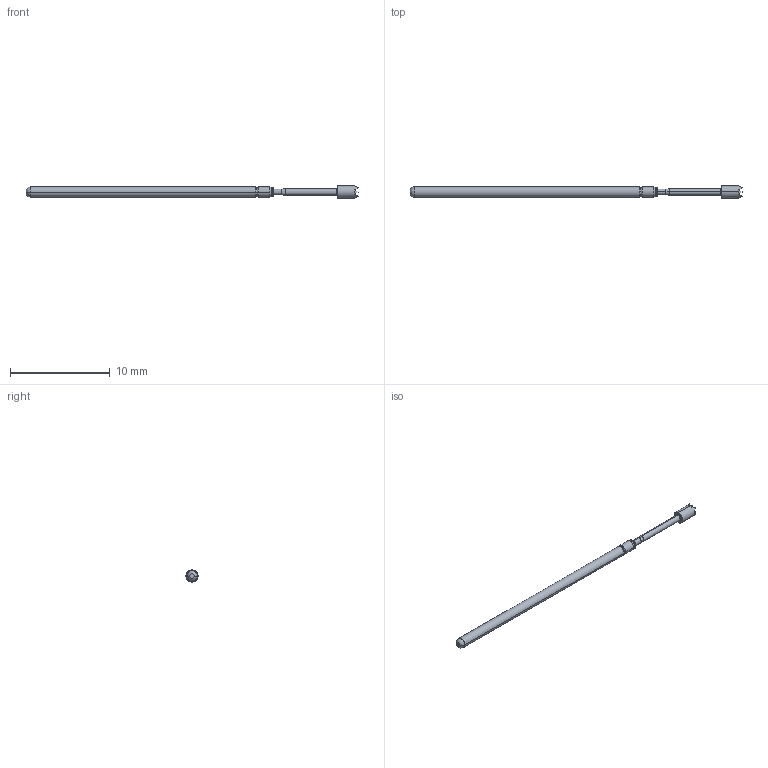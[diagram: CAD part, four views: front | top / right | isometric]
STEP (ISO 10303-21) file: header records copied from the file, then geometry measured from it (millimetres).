
FILE_DESCRIPTION (( 'STEP AP203' ), '1' );
FILE_NAME ('101024-027-922 (REST).STEP', '2022-11-18T09:47:08', ( '' ), ( '' ), 'SwSTEP 2.0', 'SolidWorks 2022', '' );
FILE_SCHEMA (( 'CONFIG_CONTROL_DESIGN' ));
Length unit declared in the file: inch
Products named in the file (1): 101024-027-922 (REST)
Bounding box: 33.27 x 1.22 x 1.22 mm (x, y, z)
Volume: 24.2 mm3; surface area: 102.9 mm2
Topology: 1 solids, 1 shells, 58 faces, 116 edges, 63 vertices
Faces by surface type: plane 32, cylinder 12, torus 8, cone 6
Entity records: 1535 total; most frequent: CARTESIAN_POINT 304, DIRECTION 252, ORIENTED_EDGE 232, EDGE_CURVE 116, AXIS2_PLACEMENT_3D 99, VERTEX_POINT 63, EDGE_LOOP 61, FACE_OUTER_BOUND 58
